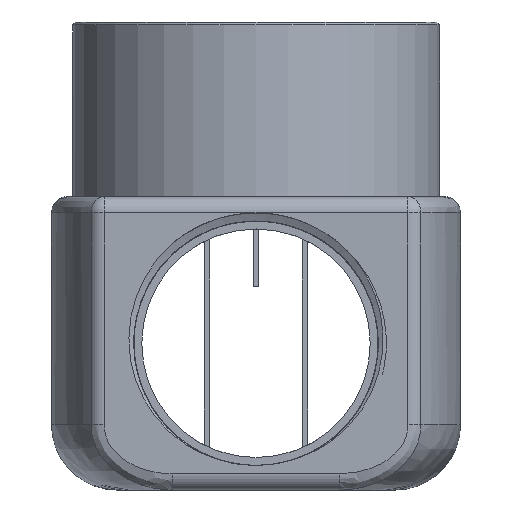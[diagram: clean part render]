
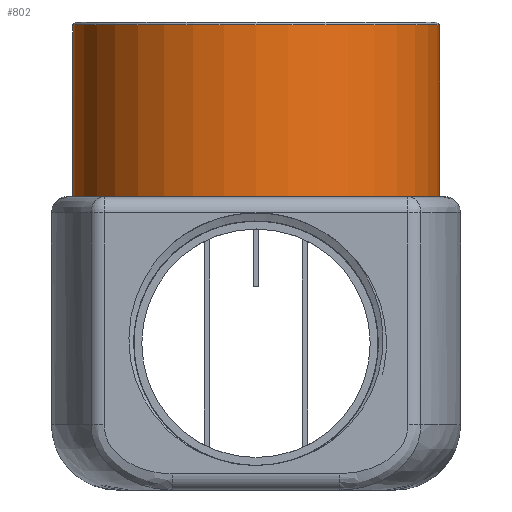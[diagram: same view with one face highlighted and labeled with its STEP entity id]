
A CAD part, front view. The second image highlights one B-rep face of the part: STEP entity #802.
In plain terms, the highlighted cylindrical face has radius 33.65 mm (diameter 67.3 mm), a full revolution.
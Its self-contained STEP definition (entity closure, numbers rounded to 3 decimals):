
#314=ELLIPSE('',#5226,47.588,33.65);
#738=B_SPLINE_CURVE_WITH_KNOTS('',3,(#12193,#12194,#12195,#12196,#12197,
#12198,#12199,#12200,#12201,#12202,#12203,#12204,#12205),.UNSPECIFIED.,
 .F.,.F.,(4,3,3,3,4),(0.,0.249,0.499,0.749,
1.),.UNSPECIFIED.);
#739=B_SPLINE_CURVE_WITH_KNOTS('',3,(#12213,#12214,#12215,#12216,#12217,
#12218,#12219,#12220,#12221,#12222),.UNSPECIFIED.,.F.,.F.,(4,3,3,4),(0.,
0.249,0.498,1.),.UNSPECIFIED.);
#802=ADVANCED_FACE('',(#1167,#1168,#1169),#1065,.T.);
#1065=CYLINDRICAL_SURFACE('',#5230,33.65);
#1167=FACE_BOUND('',#1291,.T.);
#1168=FACE_BOUND('',#1292,.T.);
#1169=FACE_BOUND('',#1293,.T.);
#1291=EDGE_LOOP('',(#2419));
#1292=EDGE_LOOP('',(#2420,#2421,#2422,#2423,#2424,#2425,#2426,#2427));
#1293=EDGE_LOOP('',(#2428));
#1607=LINE('',#12190,#1902);
#1608=LINE('',#12224,#1903);
#1902=VECTOR('',#5965,1.);
#1903=VECTOR('',#5972,1.);
#2419=ORIENTED_EDGE('',*,*,#4084,.F.);
#2420=ORIENTED_EDGE('',*,*,#4210,.F.);
#2421=ORIENTED_EDGE('',*,*,#4211,.T.);
#2422=ORIENTED_EDGE('',*,*,#4212,.F.);
#2423=ORIENTED_EDGE('',*,*,#4213,.T.);
#2424=ORIENTED_EDGE('',*,*,#4214,.F.);
#2425=ORIENTED_EDGE('',*,*,#4215,.T.);
#2426=ORIENTED_EDGE('',*,*,#4216,.T.);
#2427=ORIENTED_EDGE('',*,*,#4217,.F.);
#2428=ORIENTED_EDGE('',*,*,#4218,.T.);
#3623=VERTEX_POINT('',#7234);
#3703=VERTEX_POINT('',#12191);
#3704=VERTEX_POINT('',#12192);
#3705=VERTEX_POINT('',#12206);
#3706=VERTEX_POINT('',#12208);
#3707=VERTEX_POINT('',#12210);
#3708=VERTEX_POINT('',#12212);
#3709=VERTEX_POINT('',#12223);
#3710=VERTEX_POINT('',#12225);
#3711=VERTEX_POINT('',#12228);
#4084=EDGE_CURVE('',#3623,#3623,#4796,.T.);
#4210=EDGE_CURVE('',#3703,#3704,#1607,.T.);
#4211=EDGE_CURVE('',#3703,#3705,#738,.T.);
#4212=EDGE_CURVE('',#3706,#3705,#4848,.T.);
#4213=EDGE_CURVE('',#3706,#3707,#314,.T.);
#4214=EDGE_CURVE('',#3708,#3707,#4849,.T.);
#4215=EDGE_CURVE('',#3708,#3709,#739,.T.);
#4216=EDGE_CURVE('',#3709,#3710,#1608,.T.);
#4217=EDGE_CURVE('',#3704,#3710,#4850,.T.);
#4218=EDGE_CURVE('',#3711,#3711,#4851,.T.);
#4796=CIRCLE('',#5132,33.65);
#4848=CIRCLE('',#5225,33.65);
#4849=CIRCLE('',#5227,33.65);
#4850=CIRCLE('',#5228,33.65);
#4851=CIRCLE('',#5229,33.65);
#5132=AXIS2_PLACEMENT_3D('',#7233,#5741,#5742);
#5225=AXIS2_PLACEMENT_3D('',#12207,#5966,#5967);
#5226=AXIS2_PLACEMENT_3D('',#12209,#5968,#5969);
#5227=AXIS2_PLACEMENT_3D('',#12211,#5970,#5971);
#5228=AXIS2_PLACEMENT_3D('',#12226,#5973,#5974);
#5229=AXIS2_PLACEMENT_3D('',#12227,#5975,#5976);
#5230=AXIS2_PLACEMENT_3D('',#12229,#5977,#5978);
#5741=DIRECTION('',(0.,0.,-1.));
#5742=DIRECTION('',(1.,0.,0.));
#5965=DIRECTION('',(0.,0.,-1.));
#5966=DIRECTION('',(0.,0.,-1.));
#5967=DIRECTION('',(-1.,0.,0.));
#5968=DIRECTION('',(0.,0.707,0.707));
#5969=DIRECTION('',(0.,0.707,-0.707));
#5970=DIRECTION('',(0.,0.,-1.));
#5971=DIRECTION('',(-1.,0.,0.));
#5972=DIRECTION('',(0.,0.,-1.));
#5973=DIRECTION('',(0.,0.,1.));
#5974=DIRECTION('',(1.,0.,0.));
#5975=DIRECTION('',(0.,0.,-1.));
#5976=DIRECTION('',(1.,0.,0.));
#5977=DIRECTION('',(0.,0.,-1.));
#5978=DIRECTION('',(1.,0.,0.));
#7233=CARTESIAN_POINT('',(154.5,-4.,26.9));
#7234=CARTESIAN_POINT('',(188.15,-4.,26.9));
#12190=CARTESIAN_POINT('',(188.115,-2.475,54.9));
#12191=CARTESIAN_POINT('',(188.115,-2.475,54.4));
#12192=CARTESIAN_POINT('',(188.115,-2.475,27.15));
#12193=CARTESIAN_POINT('',(188.115,-2.475,54.4));
#12194=CARTESIAN_POINT('',(188.094,-2.004,54.409));
#12195=CARTESIAN_POINT('',(188.063,-1.534,54.426));
#12196=CARTESIAN_POINT('',(188.022,-1.064,54.451));
#12197=CARTESIAN_POINT('',(187.981,-0.595,54.477));
#12198=CARTESIAN_POINT('',(187.93,-0.127,54.51));
#12199=CARTESIAN_POINT('',(187.869,0.339,54.552));
#12200=CARTESIAN_POINT('',(187.808,0.806,54.594));
#12201=CARTESIAN_POINT('',(187.738,1.272,54.644));
#12202=CARTESIAN_POINT('',(187.658,1.736,54.702));
#12203=CARTESIAN_POINT('',(187.577,2.2,54.76));
#12204=CARTESIAN_POINT('',(187.487,2.662,54.826));
#12205=CARTESIAN_POINT('',(187.388,3.121,54.9));
#12206=CARTESIAN_POINT('',(187.388,3.119,54.9));
#12207=CARTESIAN_POINT('',(154.5,-4.,54.9));
#12208=CARTESIAN_POINT('',(157.674,29.5,54.9));
#12209=CARTESIAN_POINT('',(154.5,-4.,88.4));
#12210=CARTESIAN_POINT('',(151.326,29.5,54.9));
#12211=CARTESIAN_POINT('',(154.5,-4.,54.9));
#12212=CARTESIAN_POINT('',(121.612,3.119,54.9));
#12213=CARTESIAN_POINT('',(121.612,3.12,54.9));
#12214=CARTESIAN_POINT('',(121.513,2.665,54.826));
#12215=CARTESIAN_POINT('',(121.424,2.206,54.761));
#12216=CARTESIAN_POINT('',(121.344,1.745,54.703));
#12217=CARTESIAN_POINT('',(121.264,1.284,54.645));
#12218=CARTESIAN_POINT('',(121.194,0.82,54.595));
#12219=CARTESIAN_POINT('',(121.133,0.354,54.553));
#12220=CARTESIAN_POINT('',(121.011,-0.582,54.469));
#12221=CARTESIAN_POINT('',(120.928,-1.528,54.418));
#12222=CARTESIAN_POINT('',(120.885,-2.475,54.4));
#12223=CARTESIAN_POINT('',(120.885,-2.475,54.4));
#12224=CARTESIAN_POINT('',(120.885,-2.475,54.9));
#12225=CARTESIAN_POINT('',(120.885,-2.475,27.15));
#12226=CARTESIAN_POINT('',(154.5,-4.,27.15));
#12227=CARTESIAN_POINT('',(154.5,-4.,58.4));
#12228=CARTESIAN_POINT('',(188.15,-4.,58.4));
#12229=CARTESIAN_POINT('',(154.5,-4.,58.9));
